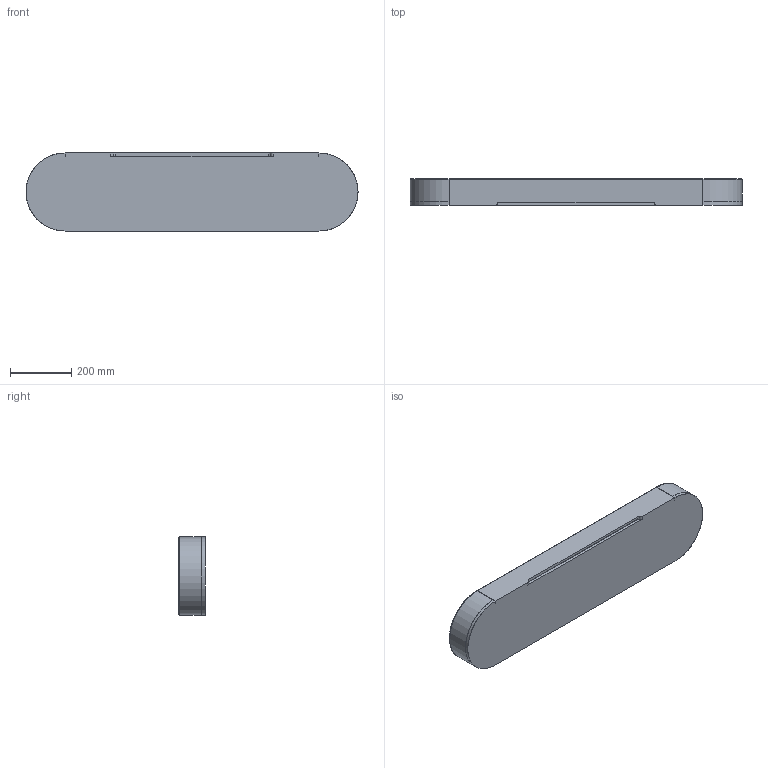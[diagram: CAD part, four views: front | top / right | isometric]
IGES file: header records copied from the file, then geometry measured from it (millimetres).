
Start section: SolidWorks IGES file using analytic representation for surfaces
Global section: file name: C:\Users\David.BDLE\Desktop\064 Desk Acessory box_vc\064 Desk Accessory box_vc_caixa prmt.IGS; native system: SolidWorks 2016; preprocessor: SolidWorks 2016; author: David; date: 200324.114822; units: millimetre
Bounding box: 1085 x 87 x 255 mm (x, y, z)
Surface area: 1529638.6 mm2 (no closed solid volume)
Topology: 0 solids, 0 shells, 58 faces, 824 edges, 824 vertices
Faces by surface type: bspline 44, revolution 14
